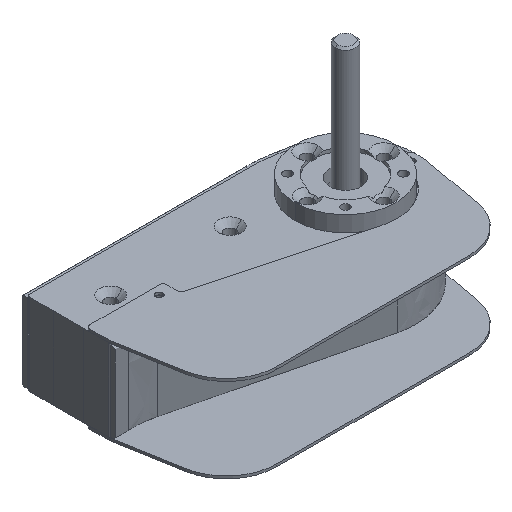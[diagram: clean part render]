
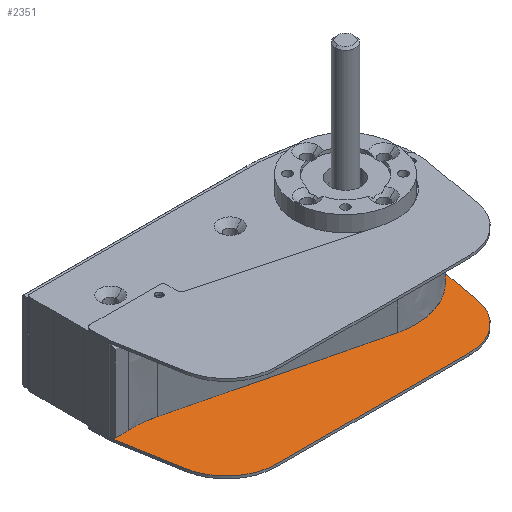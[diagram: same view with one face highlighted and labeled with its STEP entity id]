
A CAD part, isometric view. The second image highlights one B-rep face of the part: STEP entity #2351.
In plain terms, the highlighted planar face has unit normal (0, 0, 1).
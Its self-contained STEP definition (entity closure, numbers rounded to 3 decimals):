
#6 = DIRECTION ( 'NONE',  ( 0.174, 0.985, 0. ) ) ;
#33 = CARTESIAN_POINT ( 'NONE',  ( 52.057, -2.969, -65. ) ) ;
#97 = ORIENTED_EDGE ( 'NONE', *, *, #3727, .T. ) ;
#382 = CARTESIAN_POINT ( 'NONE',  ( -196.954, -10.889, -65. ) ) ;
#457 = EDGE_CURVE ( 'NONE', #11465, #4813, #9962, .T. ) ;
#599 = VERTEX_POINT ( 'NONE', #7087 ) ;
#797 = EDGE_CURVE ( 'NONE', #9494, #11634, #8160, .T. ) ;
#965 = DIRECTION ( 'NONE',  ( 0.174, -0.985, 0. ) ) ;
#971 = VERTEX_POINT ( 'NONE', #1322 ) ;
#1035 = CARTESIAN_POINT ( 'NONE',  ( 51.996, -2.366, -65. ) ) ;
#1118 = CIRCLE ( 'NONE', #3080, 52.05 ) ;
#1220 = VERTEX_POINT ( 'NONE', #6448 ) ;
#1322 = CARTESIAN_POINT ( 'NONE',  ( 3.503, -94.95, -65. ) ) ;
#1459 = ORIENTED_EDGE ( 'NONE', *, *, #2586, .T. ) ;
#1470 = AXIS2_PLACEMENT_3D ( 'NONE', #4409, #4371, #4523 ) ;
#1515 = VECTOR ( 'NONE', #6, 1000. ) ;
#1596 = DIRECTION ( 'NONE',  ( 0., 0., -1. ) ) ;
#1702 = VERTEX_POINT ( 'NONE', #1035 ) ;
#1814 = AXIS2_PLACEMENT_3D ( 'NONE', #2739, #10972, #6419 ) ;
#2351 = ADVANCED_FACE ( 'NONE', ( #8568 ), #7843, .F. ) ;
#2516 = DIRECTION ( 'NONE',  ( 1., 0., 0. ) ) ;
#2586 = EDGE_CURVE ( 'NONE', #3668, #2607, #10320, .T. ) ;
#2607 = VERTEX_POINT ( 'NONE', #10101 ) ;
#2739 = CARTESIAN_POINT ( 'NONE',  ( -173.511, -110.185, -65. ) ) ;
#2830 = CARTESIAN_POINT ( 'NONE',  ( 42.897, -61.898, -65. ) ) ;
#2965 = LINE ( 'NONE', #3048, #8121 ) ;
#3048 = CARTESIAN_POINT ( 'NONE',  ( -197.953, 5.062, -65. ) ) ;
#3080 = AXIS2_PLACEMENT_3D ( 'NONE', #11347, #8770, #10433 ) ;
#3434 = ORIENTED_EDGE ( 'NONE', *, *, #11845, .T. ) ;
#3439 = CARTESIAN_POINT ( 'NONE',  ( 52.057, -9.969, -65. ) ) ;
#3494 = ORIENTED_EDGE ( 'NONE', *, *, #8729, .T. ) ;
#3668 = VERTEX_POINT ( 'NONE', #10833 ) ;
#3727 = EDGE_CURVE ( 'NONE', #7256, #10156, #4679, .T. ) ;
#3770 = ORIENTED_EDGE ( 'NONE', *, *, #9853, .T. ) ;
#3854 = DIRECTION ( 'NONE',  ( 0.966, -0.259, 0. ) ) ;
#3946 = LINE ( 'NONE', #2830, #1515 ) ;
#3980 = VECTOR ( 'NONE', #8615, 1000. ) ;
#4156 = DIRECTION ( 'NONE',  ( 1., 0., 0. ) ) ;
#4181 = CARTESIAN_POINT ( 'NONE',  ( -150.692, -13.499, -65. ) ) ;
#4290 = ORIENTED_EDGE ( 'NONE', *, *, #4511, .T. ) ;
#4319 = ORIENTED_EDGE ( 'NONE', *, *, #457, .F. ) ;
#4371 = DIRECTION ( 'NONE',  ( 0., 0., 1. ) ) ;
#4409 = CARTESIAN_POINT ( 'NONE',  ( 49.057, -2.969, -65. ) ) ;
#4511 = EDGE_CURVE ( 'NONE', #971, #6125, #11278, .T. ) ;
#4523 = DIRECTION ( 'NONE',  ( 1., 0., 0. ) ) ;
#4679 = CIRCLE ( 'NONE', #1470, 3. ) ;
#4682 = DIRECTION ( 'NONE',  ( 0., 0., 1. ) ) ;
#4813 = VERTEX_POINT ( 'NONE', #382 ) ;
#5149 = CARTESIAN_POINT ( 'NONE',  ( 49.057, -2.969, -65. ) ) ;
#5237 = EDGE_CURVE ( 'NONE', #6125, #10785, #3946, .T. ) ;
#5312 = CARTESIAN_POINT ( 'NONE',  ( 3.505, -54.95, -65. ) ) ;
#5359 = AXIS2_PLACEMENT_3D ( 'NONE', #5149, #10693, #6132 ) ;
#5456 = ORIENTED_EDGE ( 'NONE', *, *, #797, .F. ) ;
#5709 = DIRECTION ( 'NONE',  ( 1., 0., 0. ) ) ;
#6096 = ORIENTED_EDGE ( 'NONE', *, *, #11611, .F. ) ;
#6125 = VERTEX_POINT ( 'NONE', #11155 ) ;
#6132 = DIRECTION ( 'NONE',  ( 1., 0., 0. ) ) ;
#6250 = DIRECTION ( 'NONE',  ( 0., 0., 1. ) ) ;
#6282 = CARTESIAN_POINT ( 'NONE',  ( -139.953, 5.058, -65. ) ) ;
#6419 = DIRECTION ( 'NONE',  ( 1., 0., 0. ) ) ;
#6448 = CARTESIAN_POINT ( 'NONE',  ( -149.575, -94.941, -65. ) ) ;
#6756 = CARTESIAN_POINT ( 'NONE',  ( -149.575, -94.941, -65. ) ) ;
#7014 = CARTESIAN_POINT ( 'NONE',  ( -197.954, -9.896, -65. ) ) ;
#7087 = CARTESIAN_POINT ( 'NONE',  ( -13.475, -50.276, -65. ) ) ;
#7183 = CIRCLE ( 'NONE', #9306, 40. ) ;
#7256 = VERTEX_POINT ( 'NONE', #33 ) ;
#7482 = AXIS2_PLACEMENT_3D ( 'NONE', #10645, #7852, #4156 ) ;
#7843 = PLANE ( 'NONE',  #8816 ) ;
#7852 = DIRECTION ( 'NONE',  ( 0., 0., 1. ) ) ;
#8030 = LINE ( 'NONE', #8855, #10012 ) ;
#8121 = VECTOR ( 'NONE', #9432, 1000. ) ;
#8160 = CIRCLE ( 'NONE', #1814, 99.342 ) ;
#8248 = CARTESIAN_POINT ( 'NONE',  ( -197.954, -10.889, -65. ) ) ;
#8321 = EDGE_CURVE ( 'NONE', #11634, #599, #10505, .T. ) ;
#8338 = CARTESIAN_POINT ( 'NONE',  ( -149.573, -54.941, -65. ) ) ;
#8516 = CARTESIAN_POINT ( 'NONE',  ( -150.692, -13.499, -65. ) ) ;
#8568 = FACE_OUTER_BOUND ( 'NONE', #11368, .T. ) ;
#8615 = DIRECTION ( 'NONE',  ( 1., 0., 0. ) ) ;
#8627 = ORIENTED_EDGE ( 'NONE', *, *, #11096, .F. ) ;
#8729 = EDGE_CURVE ( 'NONE', #2607, #1220, #7183, .T. ) ;
#8770 = DIRECTION ( 'NONE',  ( 0., 0., 1. ) ) ;
#8782 = ORIENTED_EDGE ( 'NONE', *, *, #8321, .F. ) ;
#8816 = AXIS2_PLACEMENT_3D ( 'NONE', #6282, #1596, #2516 ) ;
#8855 = CARTESIAN_POINT ( 'NONE',  ( 52.057, -9.969, -65. ) ) ;
#8911 = VECTOR ( 'NONE', #965, 1000. ) ;
#8999 = CARTESIAN_POINT ( 'NONE',  ( 52.057, -2.969, -65. ) ) ;
#9153 = AXIS2_PLACEMENT_3D ( 'NONE', #5312, #6250, #11799 ) ;
#9306 = AXIS2_PLACEMENT_3D ( 'NONE', #8338, #4682, #11144 ) ;
#9394 = CARTESIAN_POINT ( 'NONE',  ( -196.954, -10.889, -65. ) ) ;
#9432 = DIRECTION ( 'NONE',  ( 0., -1., 0. ) ) ;
#9494 = VERTEX_POINT ( 'NONE', #10927 ) ;
#9702 = DIRECTION ( 'NONE',  ( 0., 1., 0. ) ) ;
#9853 = EDGE_CURVE ( 'NONE', #1220, #971, #10572, .T. ) ;
#9962 = CIRCLE ( 'NONE', #7482, 1. ) ;
#9977 = CIRCLE ( 'NONE', #5359, 3. ) ;
#10012 = VECTOR ( 'NONE', #9702, 1000. ) ;
#10101 = CARTESIAN_POINT ( 'NONE',  ( -188.966, -61.885, -65. ) ) ;
#10156 = VERTEX_POINT ( 'NONE', #8999 ) ;
#10169 = ORIENTED_EDGE ( 'NONE', *, *, #5237, .T. ) ;
#10281 = VECTOR ( 'NONE', #5709, 1000. ) ;
#10320 = LINE ( 'NONE', #8248, #8911 ) ;
#10359 = VECTOR ( 'NONE', #3854, 1000. ) ;
#10433 = DIRECTION ( 'NONE',  ( 1., 0., 0. ) ) ;
#10489 = ORIENTED_EDGE ( 'NONE', *, *, #10668, .T. ) ;
#10505 = LINE ( 'NONE', #8516, #10359 ) ;
#10572 = LINE ( 'NONE', #6756, #3980 ) ;
#10645 = CARTESIAN_POINT ( 'NONE',  ( -196.954, -9.889, -65. ) ) ;
#10668 = EDGE_CURVE ( 'NONE', #10785, #7256, #8030, .T. ) ;
#10693 = DIRECTION ( 'NONE',  ( 0., 0., 1. ) ) ;
#10785 = VERTEX_POINT ( 'NONE', #3439 ) ;
#10833 = CARTESIAN_POINT ( 'NONE',  ( -197.954, -10.889, -65. ) ) ;
#10927 = CARTESIAN_POINT ( 'NONE',  ( -176.574, -10.89, -65. ) ) ;
#10934 = ORIENTED_EDGE ( 'NONE', *, *, #11434, .T. ) ;
#10972 = DIRECTION ( 'NONE',  ( 0., 0., -1. ) ) ;
#11010 = LINE ( 'NONE', #9394, #10281 ) ;
#11096 = EDGE_CURVE ( 'NONE', #4813, #9494, #11010, .T. ) ;
#11144 = DIRECTION ( 'NONE',  ( 1., 0., 0. ) ) ;
#11155 = CARTESIAN_POINT ( 'NONE',  ( 42.897, -61.898, -65. ) ) ;
#11278 = CIRCLE ( 'NONE', #9153, 40. ) ;
#11347 = CARTESIAN_POINT ( 'NONE',  ( 0., 0., -65. ) ) ;
#11368 = EDGE_LOOP ( 'NONE', ( #6096, #8782, #5456, #8627, #4319, #3434, #1459, #3494, #3770, #4290, #10169, #10489, #97, #10934 ) ) ;
#11434 = EDGE_CURVE ( 'NONE', #10156, #1702, #9977, .T. ) ;
#11465 = VERTEX_POINT ( 'NONE', #7014 ) ;
#11611 = EDGE_CURVE ( 'NONE', #599, #1702, #1118, .T. ) ;
#11634 = VERTEX_POINT ( 'NONE', #4181 ) ;
#11799 = DIRECTION ( 'NONE',  ( 1., 0., 0. ) ) ;
#11845 = EDGE_CURVE ( 'NONE', #11465, #3668, #2965, .T. ) ;
